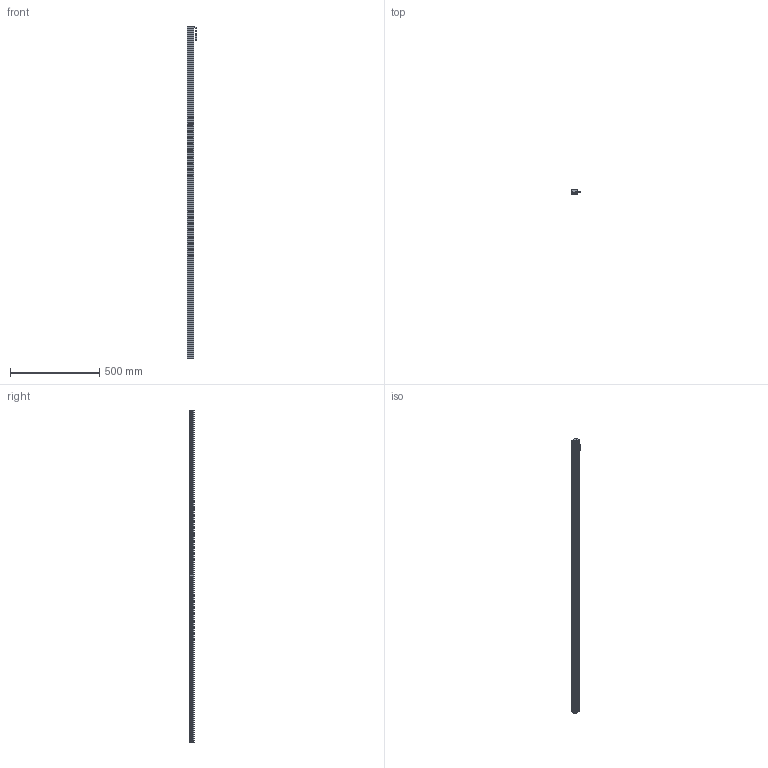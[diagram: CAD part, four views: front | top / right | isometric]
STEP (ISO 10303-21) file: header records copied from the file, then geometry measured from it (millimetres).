
FILE_DESCRIPTION (( 'STEP AP203' ), '1' );
FILE_NAME ('CK-BL185738.STEP', '2026-01-30T03:38:56', ( '' ), ( '' ), 'SwSTEP 2.0', 'SolidWorks 2022', '' );
FILE_SCHEMA (( 'CONFIG_CONTROL_DESIGN' ));
Length unit declared in the file: millimetre
Products named in the file (6): CK-BL185738-003A; 十字沉头螺丝 M2x10; 光源线; CK185738-001A; CK-BL185738-002A; CK-BL185738
Assembly tree (11 placements, depth 2):
  CK-BL185738
    CK185738-001A
    CK-BL185738-002A  x2
    CK-BL185738-003A
    光源线
    十字沉头螺丝 M2x10  x6
Bounding box: 55.84 x 27 x 1857 mm (x, y, z)
Volume: 741171.2 mm3; surface area: 638301 mm2
Topology: 13 solids, 13 shells, 641 faces, 1692 edges, 1082 vertices
Faces by surface type: plane 353, cylinder 210, cone 46, bspline 32
Entity records: 16373 total; most frequent: CARTESIAN_POINT 3399, ORIENTED_EDGE 2598, DIRECTION 2515, EDGE_CURVE 1299, VECTOR 875, LINE 875, VERTEX_POINT 846, AXIS2_PLACEMENT_3D 820
